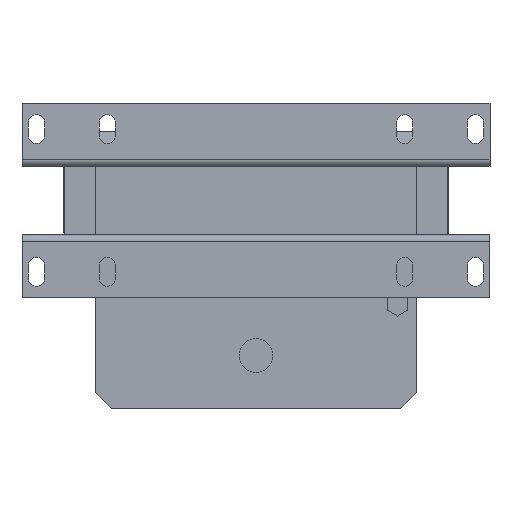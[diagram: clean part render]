
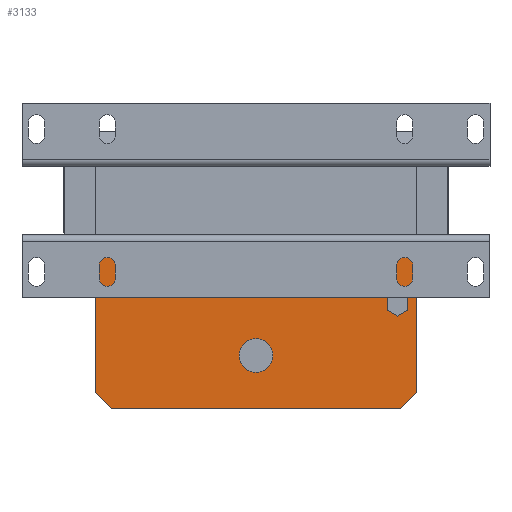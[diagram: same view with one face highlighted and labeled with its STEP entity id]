
A CAD part, front view. The second image highlights one B-rep face of the part: STEP entity #3133.
In plain terms, the highlighted planar face has unit normal (0, -1, 0).
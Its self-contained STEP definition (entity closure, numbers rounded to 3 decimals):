
#329 = DIRECTION ( 'NONE',  ( 0., 0., 1. ) ) ;
#563 = VECTOR ( 'NONE', #5513, 1000. ) ;
#616 = DIRECTION ( 'NONE',  ( 0., 0., 1. ) ) ;
#871 = CARTESIAN_POINT ( 'NONE',  ( 81.5, 42., -24.4 ) ) ;
#1364 = DIRECTION ( 'NONE',  ( -0.866, 0., -0.5 ) ) ;
#1578 = ORIENTED_EDGE ( 'NONE', *, *, #8313, .T. ) ;
#1606 = EDGE_CURVE ( 'NONE', #3766, #14104, #18153, .T. ) ;
#1915 = DIRECTION ( 'NONE',  ( 0., 0., 1. ) ) ;
#2141 = LINE ( 'NONE', #27155, #2312 ) ;
#2312 = VECTOR ( 'NONE', #8112, 1000. ) ;
#2382 = CARTESIAN_POINT ( 'NONE',  ( -100., 42., -119.4 ) ) ;
#2545 = LINE ( 'NONE', #871, #18523 ) ;
#2554 = PLANE ( 'NONE',  #16908 ) ;
#2636 = EDGE_CURVE ( 'NONE', #26930, #9094, #2545, .T. ) ;
#2881 = CARTESIAN_POINT ( 'NONE',  ( 100., 42., -30.4 ) ) ;
#3133 = ADVANCED_FACE ( 'NONE', ( #17558, #6855, #19374 ), #2554, .F. ) ;
#3552 = CARTESIAN_POINT ( 'NONE',  ( 94.5, 42., -68.153 ) ) ;
#3766 = VERTEX_POINT ( 'NONE', #12200 ) ;
#3791 = CARTESIAN_POINT ( 'NONE',  ( -90., 42., -129.4 ) ) ;
#3973 = DIRECTION ( 'NONE',  ( 0.866, 0., -0.5 ) ) ;
#4121 = EDGE_CURVE ( 'NONE', #4649, #20574, #17106, .T. ) ;
#4398 = ORIENTED_EDGE ( 'NONE', *, *, #1606, .T. ) ;
#4417 = EDGE_LOOP ( 'NONE', ( #17319, #21202, #10165, #16193, #14667, #6784 ) ) ;
#4649 = VERTEX_POINT ( 'NONE', #2881 ) ;
#4708 = CARTESIAN_POINT ( 'NONE',  ( 76.429, 42., -65.225 ) ) ;
#5151 = LINE ( 'NONE', #11940, #22314 ) ;
#5513 = DIRECTION ( 'NONE',  ( 0., 0., -1. ) ) ;
#5549 = VERTEX_POINT ( 'NONE', #9701 ) ;
#5666 = CIRCLE ( 'NONE', #14088, 10.5 ) ;
#5790 = CARTESIAN_POINT ( 'NONE',  ( -100., 42., -24.4 ) ) ;
#6413 = CARTESIAN_POINT ( 'NONE',  ( 94.5, 42., -60.647 ) ) ;
#6784 = ORIENTED_EDGE ( 'NONE', *, *, #16862, .T. ) ;
#6855 = FACE_OUTER_BOUND ( 'NONE', #21388, .T. ) ;
#7455 = DIRECTION ( 'NONE',  ( -1., 0., 0. ) ) ;
#8112 = DIRECTION ( 'NONE',  ( 0., 0., -1. ) ) ;
#8313 = EDGE_CURVE ( 'NONE', #4649, #3766, #25357, .T. ) ;
#8354 = VERTEX_POINT ( 'NONE', #3552 ) ;
#8506 = EDGE_CURVE ( 'NONE', #14104, #15588, #15893, .T. ) ;
#9013 = DIRECTION ( 'NONE',  ( 0., 0., -1. ) ) ;
#9094 = VERTEX_POINT ( 'NONE', #10842 ) ;
#9701 = CARTESIAN_POINT ( 'NONE',  ( 90., 42., -129.4 ) ) ;
#10165 = ORIENTED_EDGE ( 'NONE', *, *, #21903, .T. ) ;
#10600 = CARTESIAN_POINT ( 'NONE',  ( 90., 42., -129.4 ) ) ;
#10842 = CARTESIAN_POINT ( 'NONE',  ( 81.5, 42., -60.647 ) ) ;
#11239 = VECTOR ( 'NONE', #9013, 1000. ) ;
#11940 = CARTESIAN_POINT ( 'NONE',  ( 111.071, 42., -43.575 ) ) ;
#12142 = EDGE_CURVE ( 'NONE', #12770, #26269, #5666, .T. ) ;
#12200 = CARTESIAN_POINT ( 'NONE',  ( -100., 42., -30.4 ) ) ;
#12216 = VECTOR ( 'NONE', #24353, 1000. ) ;
#12349 = VERTEX_POINT ( 'NONE', #16603 ) ;
#12374 = CARTESIAN_POINT ( 'NONE',  ( 0., 42., -85.9 ) ) ;
#12411 = EDGE_CURVE ( 'NONE', #5549, #20574, #25605, .T. ) ;
#12598 = CARTESIAN_POINT ( 'NONE',  ( 0., 42., -96.4 ) ) ;
#12755 = ORIENTED_EDGE ( 'NONE', *, *, #17731, .F. ) ;
#12770 = VERTEX_POINT ( 'NONE', #12374 ) ;
#12970 = EDGE_CURVE ( 'NONE', #5549, #15588, #20249, .T. ) ;
#13166 = DIRECTION ( 'NONE',  ( -0.866, 0., 0.5 ) ) ;
#13476 = DIRECTION ( 'NONE',  ( 0.866, 0., 0.5 ) ) ;
#13719 = ORIENTED_EDGE ( 'NONE', *, *, #8506, .T. ) ;
#14037 = VECTOR ( 'NONE', #26899, 1000. ) ;
#14088 = AXIS2_PLACEMENT_3D ( 'NONE', #21205, #19122, #22303 ) ;
#14104 = VERTEX_POINT ( 'NONE', #2382 ) ;
#14250 = AXIS2_PLACEMENT_3D ( 'NONE', #12598, #25382, #1915 ) ;
#14667 = ORIENTED_EDGE ( 'NONE', *, *, #16926, .T. ) ;
#15065 = DIRECTION ( 'NONE',  ( 0., 1., 0. ) ) ;
#15588 = VERTEX_POINT ( 'NONE', #3791 ) ;
#15848 = CARTESIAN_POINT ( 'NONE',  ( 100., 42., -119.4 ) ) ;
#15893 = LINE ( 'NONE', #22017, #12216 ) ;
#16193 = ORIENTED_EDGE ( 'NONE', *, *, #24363, .T. ) ;
#16603 = CARTESIAN_POINT ( 'NONE',  ( 88., 42., -71.906 ) ) ;
#16862 = EDGE_CURVE ( 'NONE', #8354, #12349, #24816, .T. ) ;
#16908 = AXIS2_PLACEMENT_3D ( 'NONE', #19498, #15065, #616 ) ;
#16926 = EDGE_CURVE ( 'NONE', #24766, #8354, #2141, .T. ) ;
#17106 = LINE ( 'NONE', #23354, #11239 ) ;
#17319 = ORIENTED_EDGE ( 'NONE', *, *, #25285, .T. ) ;
#17412 = DIRECTION ( 'NONE',  ( 0.707, 0., 0.707 ) ) ;
#17558 = FACE_BOUND ( 'NONE', #19510, .T. ) ;
#17731 = EDGE_CURVE ( 'NONE', #26269, #12770, #23642, .T. ) ;
#18153 = LINE ( 'NONE', #5790, #563 ) ;
#18161 = CARTESIAN_POINT ( 'NONE',  ( 100., 42., -129.4 ) ) ;
#18433 = LINE ( 'NONE', #24955, #24202 ) ;
#18523 = VECTOR ( 'NONE', #329, 1000. ) ;
#18535 = VECTOR ( 'NONE', #17412, 1000. ) ;
#18860 = VECTOR ( 'NONE', #13166, 1000. ) ;
#19122 = DIRECTION ( 'NONE',  ( 0., -1., 0. ) ) ;
#19271 = CARTESIAN_POINT ( 'NONE',  ( 0., 42., -106.9 ) ) ;
#19314 = ORIENTED_EDGE ( 'NONE', *, *, #12970, .F. ) ;
#19374 = FACE_BOUND ( 'NONE', #4417, .T. ) ;
#19484 = CARTESIAN_POINT ( 'NONE',  ( 88., 42., -56.894 ) ) ;
#19498 = CARTESIAN_POINT ( 'NONE',  ( 100., 42., -24.4 ) ) ;
#19510 = EDGE_LOOP ( 'NONE', ( #23983, #12755 ) ) ;
#20249 = LINE ( 'NONE', #18161, #26139 ) ;
#20574 = VERTEX_POINT ( 'NONE', #15848 ) ;
#21202 = ORIENTED_EDGE ( 'NONE', *, *, #2636, .T. ) ;
#21205 = CARTESIAN_POINT ( 'NONE',  ( 0., 42., -96.4 ) ) ;
#21388 = EDGE_LOOP ( 'NONE', ( #23510, #21725, #1578, #4398, #13719, #19314 ) ) ;
#21725 = ORIENTED_EDGE ( 'NONE', *, *, #4121, .F. ) ;
#21903 = EDGE_CURVE ( 'NONE', #9094, #26565, #5151, .T. ) ;
#22017 = CARTESIAN_POINT ( 'NONE',  ( -100., 42., -119.4 ) ) ;
#22303 = DIRECTION ( 'NONE',  ( 0., 0., 1. ) ) ;
#22314 = VECTOR ( 'NONE', #13476, 1000. ) ;
#22610 = CARTESIAN_POINT ( 'NONE',  ( 117.571, 42., -54.833 ) ) ;
#22739 = CARTESIAN_POINT ( 'NONE',  ( 100., 42., -30.4 ) ) ;
#22929 = CARTESIAN_POINT ( 'NONE',  ( 81.5, 42., -68.153 ) ) ;
#23354 = CARTESIAN_POINT ( 'NONE',  ( 100., 42., -24.4 ) ) ;
#23510 = ORIENTED_EDGE ( 'NONE', *, *, #12411, .T. ) ;
#23642 = CIRCLE ( 'NONE', #14250, 10.5 ) ;
#23983 = ORIENTED_EDGE ( 'NONE', *, *, #12142, .F. ) ;
#24202 = VECTOR ( 'NONE', #3973, 1000. ) ;
#24353 = DIRECTION ( 'NONE',  ( 0.707, 0., -0.707 ) ) ;
#24363 = EDGE_CURVE ( 'NONE', #26565, #24766, #18433, .T. ) ;
#24766 = VERTEX_POINT ( 'NONE', #6413 ) ;
#24816 = LINE ( 'NONE', #22610, #26266 ) ;
#24955 = CARTESIAN_POINT ( 'NONE',  ( 82.929, 42., -53.967 ) ) ;
#25285 = EDGE_CURVE ( 'NONE', #12349, #26930, #26224, .T. ) ;
#25357 = LINE ( 'NONE', #22739, #14037 ) ;
#25382 = DIRECTION ( 'NONE',  ( 0., -1., 0. ) ) ;
#25605 = LINE ( 'NONE', #10600, #18535 ) ;
#26139 = VECTOR ( 'NONE', #7455, 1000. ) ;
#26224 = LINE ( 'NONE', #4708, #18860 ) ;
#26266 = VECTOR ( 'NONE', #1364, 1000. ) ;
#26269 = VERTEX_POINT ( 'NONE', #19271 ) ;
#26565 = VERTEX_POINT ( 'NONE', #19484 ) ;
#26899 = DIRECTION ( 'NONE',  ( -1., 0., 0. ) ) ;
#26930 = VERTEX_POINT ( 'NONE', #22929 ) ;
#27155 = CARTESIAN_POINT ( 'NONE',  ( 94.5, 42., -24.4 ) ) ;
